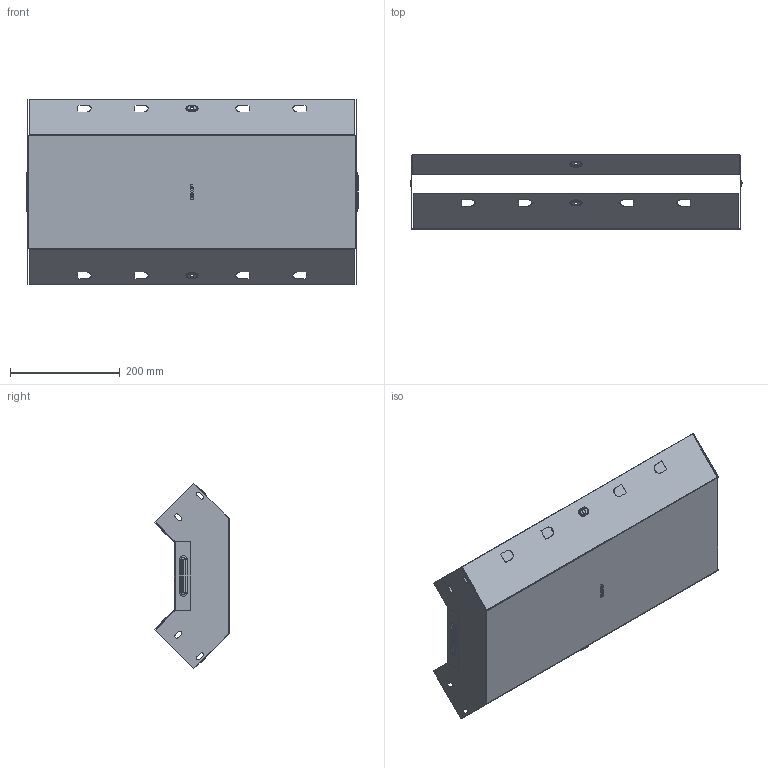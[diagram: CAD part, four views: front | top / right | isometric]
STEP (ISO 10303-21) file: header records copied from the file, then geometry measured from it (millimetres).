
FILE_DESCRIPTION (( 'STEP AP214' ), '1' );
FILE_NAME ('vi90100600_捘.STEP', '2019-06-10T09:20:20', ( '砐錪賧瘔蠈錪 Windows' ), ( '' ), 'SwSTEP 2.0', 'SolidWorks 2018', '' );
FILE_SCHEMA (( 'AUTOMOTIVE_DESIGN' ));
Length unit declared in the file: millimetre
Products named in the file (1): vi90100600_捘
Bounding box: 605.6 x 136.16 x 338.25 mm (x, y, z)
Volume: 346515.4 mm3; surface area: 870729 mm2
Topology: 2 solids, 2 shells, 468 faces, 1212 edges, 776 vertices
Faces by surface type: plane 254, cylinder 132, torus 64, bspline 18
Entity records: 15224 total; most frequent: CARTESIAN_POINT 3476, DIRECTION 2438, ORIENTED_EDGE 2424, EDGE_CURVE 1212, LINE 816, VECTOR 816, AXIS2_PLACEMENT_3D 811, VERTEX_POINT 776
